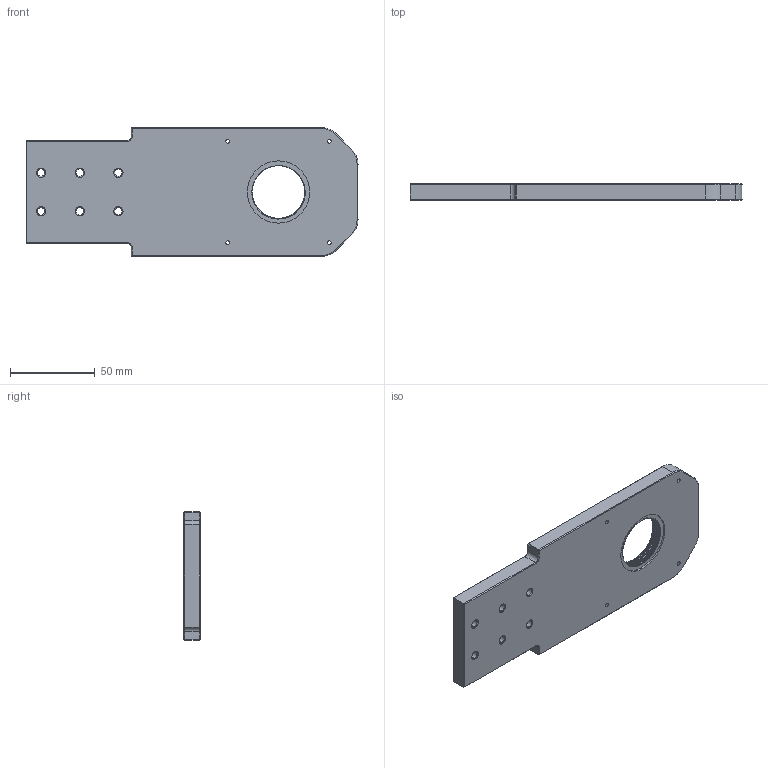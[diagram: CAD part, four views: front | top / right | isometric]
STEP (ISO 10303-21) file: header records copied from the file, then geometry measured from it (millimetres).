
FILE_DESCRIPTION((''),'2;1');
FILE_NAME('LMA95-M32','2024-04-09T16:15:38',('R&D'),(''),'CREO PARAMETRIC BY PTC INC, 2021063','CREO PARAMETRIC BY PTC INC, 2021063','');
FILE_SCHEMA(('CONFIG_CONTROL_DESIGN'));
Length unit declared in the file: millimetre
Products named in the file (1): LMA95-M32
Bounding box: 196.22 x 9.53 x 76.2 mm (x, y, z)
Volume: 113992.2 mm3; surface area: 33257.4 mm2
Topology: 1 solids, 1 shells, 180 faces, 420 edges, 256 vertices
Faces by surface type: cylinder 70, cone 50, plane 48, bspline 12
Entity records: 7237 total; most frequent: CARTESIAN_POINT 3063, DIRECTION 864, ORIENTED_EDGE 840, EDGE_CURVE 420, AXIS2_PLACEMENT_3D 328, VERTEX_POINT 256, EDGE_LOOP 216, VECTOR 208
